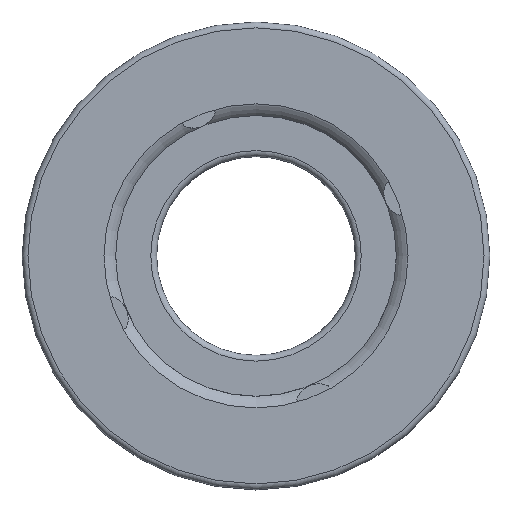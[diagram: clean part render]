
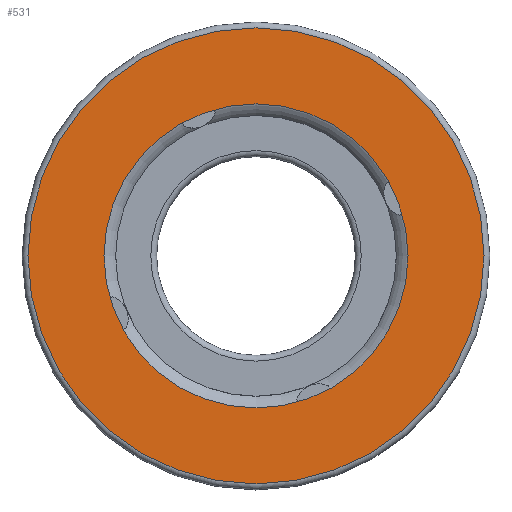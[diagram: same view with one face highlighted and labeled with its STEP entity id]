
A CAD part, top view. The second image highlights one B-rep face of the part: STEP entity #531.
In plain terms, the highlighted planar face has unit normal (0, 0, 1).
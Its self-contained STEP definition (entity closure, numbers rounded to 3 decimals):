
#487=PLANE('',#1299);
#531=ADVANCED_FACE('',(#619,#620),#487,.T.);
#619=FACE_BOUND('',#679,.T.);
#620=FACE_BOUND('',#680,.T.);
#679=EDGE_LOOP('',(#779));
#680=EDGE_LOOP('',(#780));
#779=ORIENTED_EDGE('',*,*,#1113,.T.);
#780=ORIENTED_EDGE('',*,*,#1114,.F.);
#1023=VERTEX_POINT('',#1749);
#1024=VERTEX_POINT('',#1751);
#1113=EDGE_CURVE('',#1023,#1023,#1235,.T.);
#1114=EDGE_CURVE('',#1024,#1024,#1236,.T.);
#1235=CIRCLE('',#1297,19.5);
#1236=CIRCLE('',#1298,13.);
#1297=AXIS2_PLACEMENT_3D('',#1748,#1434,#1435);
#1298=AXIS2_PLACEMENT_3D('',#1750,#1436,#1437);
#1299=AXIS2_PLACEMENT_3D('',#1752,#1438,#1439);
#1434=DIRECTION('',(0.,0.,1.));
#1435=DIRECTION('',(1.,0.,0.));
#1436=DIRECTION('',(0.,0.,1.));
#1437=DIRECTION('',(1.,0.,0.));
#1438=DIRECTION('',(0.,0.,1.));
#1439=DIRECTION('',(1.,0.,0.));
#1748=CARTESIAN_POINT('',(0.,0.,12.));
#1749=CARTESIAN_POINT('',(19.5,0.,12.));
#1750=CARTESIAN_POINT('',(0.,0.,12.));
#1751=CARTESIAN_POINT('',(13.,0.,12.));
#1752=CARTESIAN_POINT('',(0.,0.,12.));
